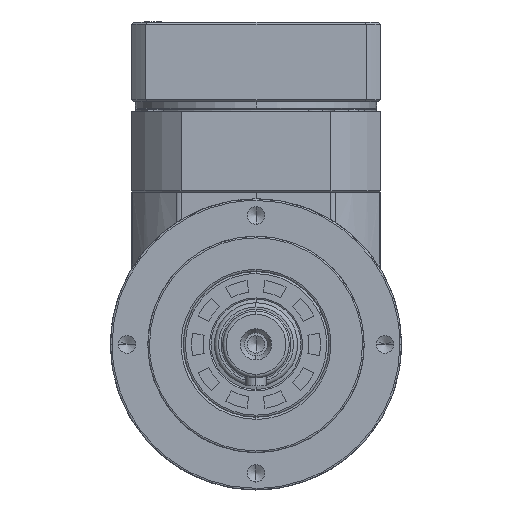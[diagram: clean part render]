
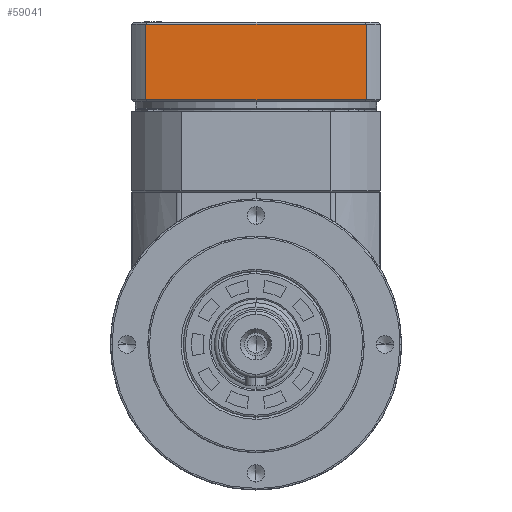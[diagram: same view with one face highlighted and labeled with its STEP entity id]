
A CAD part, left-side view. The second image highlights one B-rep face of the part: STEP entity #59041.
In plain terms, the highlighted planar face has unit normal (-1, 0, 0).
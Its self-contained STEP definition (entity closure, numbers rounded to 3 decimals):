
#7 = CARTESIAN_POINT ( 'NONE',  ( -66.465, -0.462, 54.331 ) ) ;
#465 = VERTEX_POINT ( 'NONE', #27597 ) ;
#3847 = CARTESIAN_POINT ( 'NONE',  ( -66.465, -26.92, 111.631 ) ) ;
#6467 = EDGE_CURVE ( 'NONE', #465, #63469, #50070, .T. ) ;
#11627 = DIRECTION ( 'NONE',  ( 0., 1., 0. ) ) ;
#15451 = VECTOR ( 'NONE', #65185, 1000. ) ;
#15672 = CARTESIAN_POINT ( 'NONE',  ( -66.465, -53.377, 111.631 ) ) ;
#18183 = CARTESIAN_POINT ( 'NONE',  ( -66.465, -26.92, 129.831 ) ) ;
#19849 = CARTESIAN_POINT ( 'NONE',  ( -66.465, -0.462, 129.831 ) ) ;
#23016 = CARTESIAN_POINT ( 'NONE',  ( -66.465, -53.377, 54.331 ) ) ;
#24134 = LINE ( 'NONE', #23016, #15451 ) ;
#26575 = AXIS2_PLACEMENT_3D ( 'NONE', #7, #70385, #41191 ) ;
#26654 = DIRECTION ( 'NONE',  ( 0., 0., 1. ) ) ;
#27597 = CARTESIAN_POINT ( 'NONE',  ( -66.465, -0.462, 111.631 ) ) ;
#30933 = VERTEX_POINT ( 'NONE', #19849 ) ;
#34643 = PLANE ( 'NONE',  #26575 ) ;
#37172 = VECTOR ( 'NONE', #11627, 1000. ) ;
#39336 = EDGE_CURVE ( 'NONE', #465, #30933, #59678, .T. ) ;
#40825 = LINE ( 'NONE', #18183, #37172 ) ;
#41191 = DIRECTION ( 'NONE',  ( 0., 0., 1. ) ) ;
#44382 = VECTOR ( 'NONE', #73848, 1000. ) ;
#46235 = FACE_OUTER_BOUND ( 'NONE', #50792, .T. ) ;
#48185 = CARTESIAN_POINT ( 'NONE',  ( -66.465, -0.462, 105.331 ) ) ;
#50070 = LINE ( 'NONE', #3847, #44382 ) ;
#50792 = EDGE_LOOP ( 'NONE', ( #53262, #72021, #58664, #71122 ) ) ;
#53262 = ORIENTED_EDGE ( 'NONE', *, *, #60572, .T. ) ;
#56382 = VECTOR ( 'NONE', #26654, 1000. ) ;
#58664 = ORIENTED_EDGE ( 'NONE', *, *, #6467, .T. ) ;
#59041 = ADVANCED_FACE ( 'NONE', ( #46235 ), #34643, .T. ) ;
#59678 = LINE ( 'NONE', #48185, #56382 ) ;
#60572 = EDGE_CURVE ( 'NONE', #73201, #30933, #40825, .T. ) ;
#62621 = EDGE_CURVE ( 'NONE', #63469, #73201, #24134, .T. ) ;
#63469 = VERTEX_POINT ( 'NONE', #15672 ) ;
#65185 = DIRECTION ( 'NONE',  ( 0., 0., 1. ) ) ;
#67333 = CARTESIAN_POINT ( 'NONE',  ( -66.465, -53.377, 129.831 ) ) ;
#70385 = DIRECTION ( 'NONE',  ( -1., 0., 0. ) ) ;
#71122 = ORIENTED_EDGE ( 'NONE', *, *, #62621, .T. ) ;
#72021 = ORIENTED_EDGE ( 'NONE', *, *, #39336, .F. ) ;
#73201 = VERTEX_POINT ( 'NONE', #67333 ) ;
#73848 = DIRECTION ( 'NONE',  ( 0., -1., 0. ) ) ;
